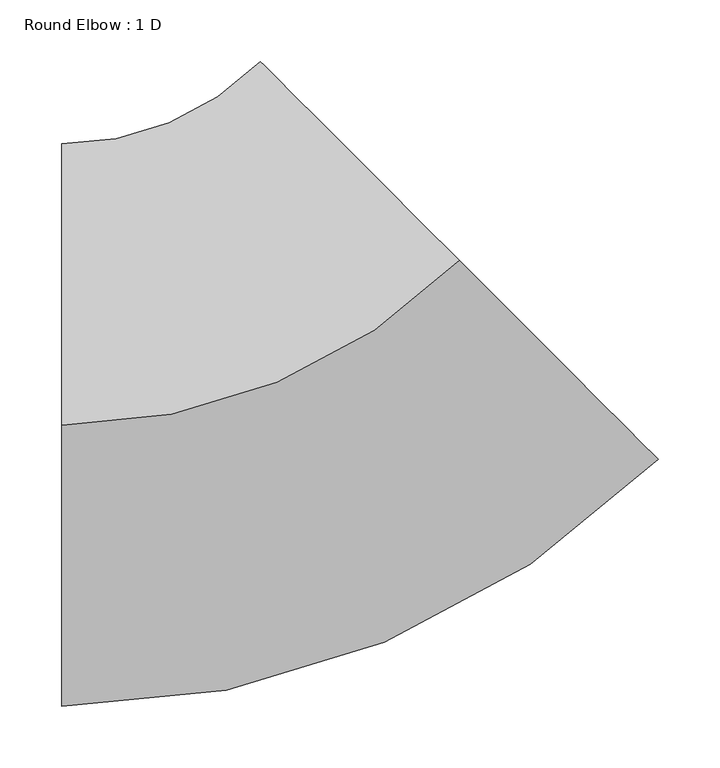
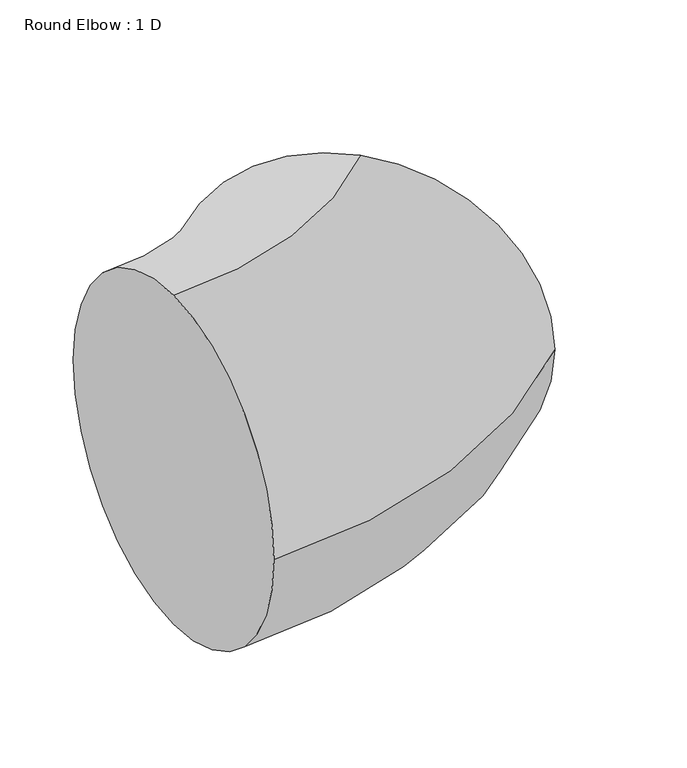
"""IFC4 building model written with IfcOpenShell, lengths in millimetres: duct fitting geometry, Round Elbow : 1 D."""

from ifc_helpers import new_model, si_unit, point, frame, origin, place, context, project, spatial, circle_curve, ellipse_curve, trimmed, source, transform, mapped, element, save
from ifc_brep_helpers import plane_surface, revolved_surface, advanced_brep


def round_elbow_1_d_6b09a4cd(model_context):
    return source(origin(), model_context, "Body", "AdvancedBrep", [
        advanced_brep(
        [(-189.3784407, 0.0, 228.6), (-189.3784407, 228.6, 0.0), (-189.3784407, 0.0, -228.6), (-189.3784407, -228.6, 0.0), (133.9107796, 133.9107796, 228.6), (295.5553898, -27.7338305, 0.0), (133.9107796, 133.9107796, -228.6), (-27.7338305, 295.5553898, 0.0)],
        [
            (0, 1, circle_curve(frame((-189.3784407, 0.0, 0.0), z_axis=(-1.0, 0.0, 0.0), x_axis=(0.0, 1.0, 0.0)), 228.6)),
            (1, 2, circle_curve(frame((-189.3784407, 0.0, 0.0), z_axis=(-1.0, 0.0, 0.0), x_axis=(0.0, 1.0, 0.0)), 228.6)),
            (2, 3, circle_curve(frame((-189.3784407, 0.0, 0.0), z_axis=(-1.0, 0.0, 0.0), x_axis=(0.0, 1.0, 0.0)), 228.6)),
            (3, 0, circle_curve(frame((-189.3784407, 0.0, 0.0), z_axis=(-1.0, 0.0, 0.0), x_axis=(0.0, 1.0, 0.0)), 228.6)),
            (4, 5, circle_curve(frame((133.9107796, 133.9107796, 0.0), z_axis=(0.707106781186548, 0.707106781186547, 0.0), x_axis=(-0.707106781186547, 0.707106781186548, 0.0)), 228.6)),
            (5, 6, circle_curve(frame((133.9107796, 133.9107796, 0.0), z_axis=(0.707106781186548, 0.707106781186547, 0.0), x_axis=(-0.707106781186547, 0.707106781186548, 0.0)), 228.6)),
            (6, 7, circle_curve(frame((133.9107796, 133.9107796, 0.0), z_axis=(0.707106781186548, 0.707106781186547, 0.0), x_axis=(-0.707106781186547, 0.707106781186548, 0.0)), 228.6)),
            (7, 4, circle_curve(frame((133.9107796, 133.9107796, 0.0), z_axis=(0.707106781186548, 0.707106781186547, 0.0), x_axis=(-0.707106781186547, 0.707106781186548, 0.0)), 228.6)),
            (7, 1, circle_curve(frame((-189.3784407, 457.2, 0.0), z_axis=(0.0, 0.0, -1.0), x_axis=(0.0, -1.0, 0.0)), 228.6)),
            (0, 4, circle_curve(frame((-189.3784407, 457.2, 228.6), z_axis=(0.0, 0.0, 1.0), x_axis=(0.0, -1.0, 0.0)), 457.2)),
            (6, 2, circle_curve(frame((-189.3784407, 457.2, -228.6), z_axis=(0.0, 0.0, -1.0), x_axis=(0.0, -1.0, 0.0)), 457.2)),
            (5, 3, circle_curve(frame((-189.3784407, 457.2, 0.0), z_axis=(0.0, 0.0, -1.0), x_axis=(0.0, -1.0, 0.0)), 685.8)),
        ],
        [
            plane_surface(frame((-189.3784407, 0.0, 0.0), z_axis=(-1.0, 0.0, 0.0), x_axis=(0.0, 0.0, 1.0))),
            plane_surface(frame((133.9107796, 133.9107796, 0.0), z_axis=(0.707106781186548, 0.7071067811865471, 0.0), x_axis=(0.0, 0.0, 1.0))),
            revolved_surface(trimmed(ellipse_curve(frame((-189.3784407, 0.0, 0.0), z_axis=(-1.0, 0.0, 0.0), x_axis=(0.0, 1.0, 0.0)), 228.6, 228.6), [point((-189.3784407, 0.0, 228.6))], [point((-189.3784407, 228.6, 0.0))], True, "CARTESIAN"), (-189.3784407, 457.2, 0.0), (0.0, 0.0, 1.0)),
            revolved_surface(trimmed(ellipse_curve(frame((-189.3784407, 0.0, 0.0), z_axis=(-1.0, 0.0, 0.0), x_axis=(0.0, 1.0, 0.0)), 228.6, 228.6), [point((-189.3784407, 228.6, 0.0))], [point((-189.3784407, 0.0, -228.6))], True, "CARTESIAN"), (-189.3784407, 457.2, 0.0), (0.0, 0.0, 1.0)),
            revolved_surface(trimmed(ellipse_curve(frame((-189.3784407, 0.0, 0.0), z_axis=(-1.0, 0.0, 0.0), x_axis=(0.0, 1.0, 0.0)), 228.6, 228.6), [point((-189.3784407, 0.0, -228.6))], [point((-189.3784407, -228.6, 0.0))], True, "CARTESIAN"), (-189.3784407, 457.2, 0.0), (0.0, 0.0, 1.0)),
            revolved_surface(trimmed(ellipse_curve(frame((-189.3784407, 0.0, 0.0), z_axis=(-1.0, 0.0, 0.0), x_axis=(0.0, 1.0, 0.0)), 228.6, 228.6), [point((-189.3784407, -228.6, 0.0))], [point((-189.3784407, 0.0, 228.6))], True, "CARTESIAN"), (-189.3784407, 457.2, 0.0), (0.0, 0.0, 1.0)),
        ],
        [
            (0, [[1, 2, 3, 4]]),
            (1, [[5, 6, 7, 8]]),
            (2, [[9, -1, 10, -8]]),
            (3, [[11, -2, -9, -7]]),
            (4, [[12, -3, -11, -6]]),
            (5, [[-10, -4, -12, -5]]),
        ],
    ),
    ])


if __name__ == "__main__":
    model = new_model("IFC4")
    model_context = context("Model", 3, world=origin())
    ifc_project = project(units=[si_unit("LENGTHUNIT", "METRE", prefix="MILLI")], contexts=[model_context])
    site = spatial("IfcSite", under=ifc_project)
    building = spatial("IfcBuilding", under=site)
    placement = place(None, origin())
    round_elbow_1_d_shape = round_elbow_1_d_6b09a4cd(model_context)
    element("IfcDuctFitting", 1, ObjectType="Round Elbow : 1 D", at=placement, inside=building, context=model_context, shape_type="MappedRepresentation", body=[
        mapped(round_elbow_1_d_shape, transform((0.0, 0.0, 0.0), x_axis=(1.0, 0.0, 0.0), y_axis=(0.0, 1.0, 0.0), z_axis=(0.0, 0.0, 1.0))),
    ])
    save(model, "model.ifc")
